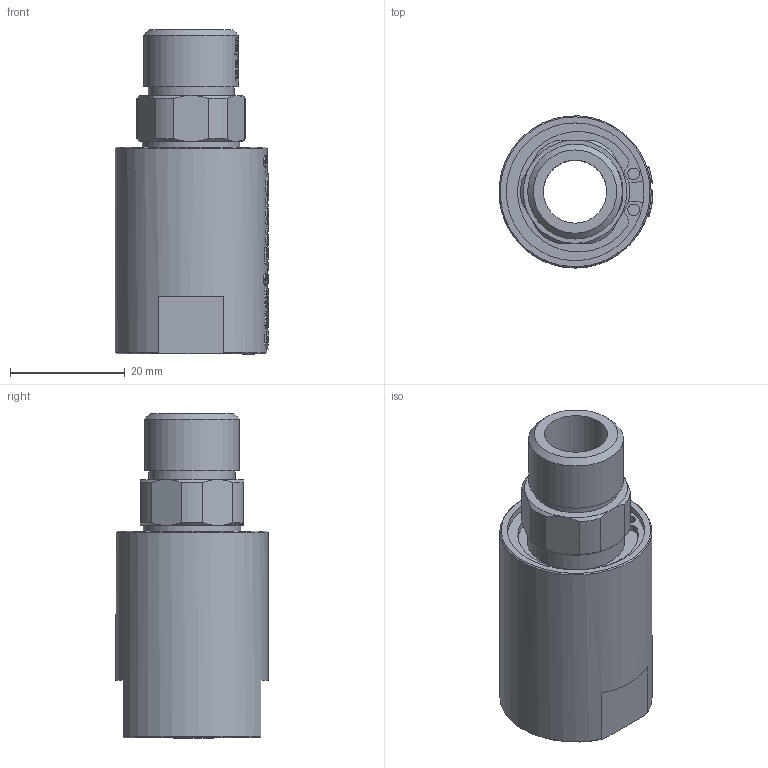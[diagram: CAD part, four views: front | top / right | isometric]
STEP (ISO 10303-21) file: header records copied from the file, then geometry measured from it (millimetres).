
FILE_DESCRIPTION(/* description */ (''),/* implementation_level */ '2;1');
FILE_NAME(/* name */ 'YYK0103(RH)-3D模型.stp',/* time_stamp */ '2025-07-09T09:17:38+08:00',/* author */ (''),/* organization */ (''),/* preprocessor_version */ 'ST-DEVELOPER v16.7',/* originating_system */ 'SIEMENS PLM Software NX 12.0',/* authorisation */ '');
FILE_SCHEMA (('AUTOMOTIVE_DESIGN { 1 0 10303 214 3 1 1 1 }'));
Products named in the file (1): Admi1300D6723w0a
Bounding box: 26.77 x 26.5 x 56.6 mm (x, y, z)
Volume: 17632.3 mm3; surface area: 7748.8 mm2
Topology: 1 solids, 1 shells, 1146 faces, 3167 edges, 2107 vertices
Faces by surface type: extrusion 717, plane 322, cylinder 47, bspline 43, cone 17
Full cylindrical faces by diameter (mm): 2 x2, 11 x1, 15 x2, 16.5 x1, 17 x1, 24 x1, 25.2 x1, 26.5 x1
Entity records: 47804 total; most frequent: CARTESIAN_POINT 24026, ORIENTED_EDGE 6300, B_SPLINE_CURVE_WITH_KNOTS 3369, EDGE_CURVE 3150, VERTEX_POINT 2103, DIRECTION 2042, EDGE_LOOP 1245, ADVANCED_FACE 1146
